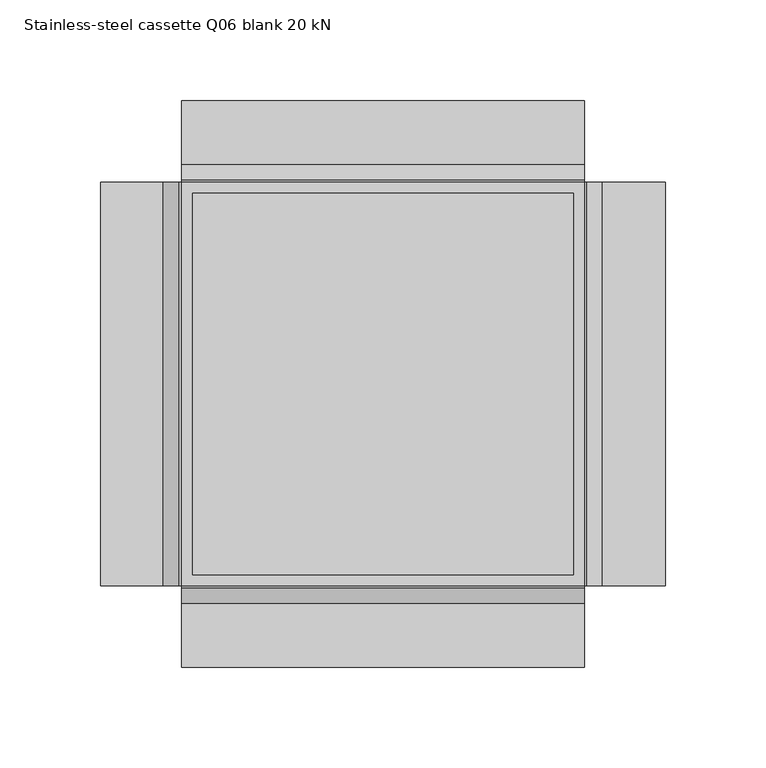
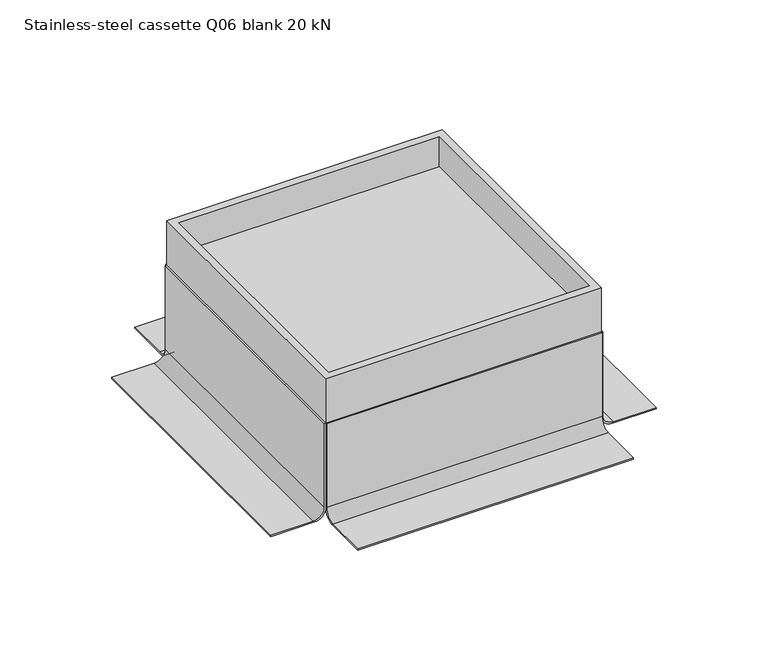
"""IFC4 building model written with IfcOpenShell, lengths in millimetres: proxy geometry, Electrical_Installation_Hager_VE-EE_EKSQ0620BL-Heavy-duty-cassette-Q06-blank : Stainless-steel cassette Q06 blank 20 kN."""

from ifc_helpers import new_model, si_unit, point, frame, frame_2d, origin, place, context, project, spatial, polyline, circle_curve, trimmed, segment, composite_curve, outline, extrude, source, transform, mapped, element, save


def stainless_steel_cassette_q06_blank_20_kn_74425823(model_context):
    return source(origin(), model_context, "Body", "SweptSolid", [
        extrude(outline(composite_curve([segment(polyline([(-32.0, -100.0), (-32.0, -101.0), (-96.0, -101.0)]), True, "CONTINUOUS"), segment(trimmed(circle_curve(frame_2d((-96.0, -109.0)), 8.0), [point((-96.0, -101.0))], [point((-104.0, -109.0))], True, "CARTESIAN"), True, "CONTINUOUS"), segment(polyline([(-104.0, -109.0), (-104.0, -140.0), (-105.0, -140.0), (-105.0, -108.0)]), True, "CONTINUOUS"), segment(trimmed(circle_curve(frame_2d((-97.0, -108.0)), 8.0), [point((-105.0, -108.0))], [point((-97.0, -100.0))], False, "CARTESIAN"), True, "CONTINUOUS"), segment(polyline([(-97.0, -100.0), (-32.0, -100.0)]), True, "CONTINUOUS")], self_intersect=False)), frame((0.0, -100.0, 0.0), z_axis=(0.0, 1.0, 0.0), x_axis=(0.0, 0.0, 1.0)), (0.0, 0.0, 1.0), 200.0),
        extrude(outline(composite_curve([segment(polyline([(-32.0, 100.0), (-97.0, 100.0)]), True, "CONTINUOUS"), segment(trimmed(circle_curve(frame_2d((-97.0, 108.0)), 8.0), [point((-97.0, 100.0))], [point((-105.0, 108.0))], False, "CARTESIAN"), True, "CONTINUOUS"), segment(polyline([(-105.0, 108.0), (-105.0, 140.0), (-104.0, 140.0), (-104.0, 109.0)]), True, "CONTINUOUS"), segment(trimmed(circle_curve(frame_2d((-96.0, 109.0)), 8.0), [point((-104.0, 109.0))], [point((-96.0, 101.0))], True, "CARTESIAN"), True, "CONTINUOUS"), segment(polyline([(-96.0, 101.0), (-32.0, 101.0), (-32.0, 100.0)]), True, "CONTINUOUS")], self_intersect=False)), frame((0.0, -100.0, 0.0), z_axis=(0.0, 1.0, 0.0), x_axis=(0.0, 0.0, 1.0)), (0.0, 0.0, 1.0), 200.0),
        extrude(outline(composite_curve([segment(polyline([(101.0, -32.0), (101.0, -96.0189708)]), True, "CONTINUOUS"), segment(trimmed(circle_curve(frame_2d((108.9810292, -96.0189708)), 7.9810292), [point((101.0, -96.0189708))], [point((108.9810292, -104.0))], True, "CARTESIAN"), True, "CONTINUOUS"), segment(polyline([(108.9810292, -104.0), (140.4, -104.0), (140.4, -105.0), (108.0, -105.0)]), True, "CONTINUOUS"), segment(trimmed(circle_curve(frame_2d((108.0, -97.0)), 8.0), [point((108.0, -105.0))], [point((100.0, -97.0))], False, "CARTESIAN"), True, "CONTINUOUS"), segment(polyline([(100.0, -97.0), (100.0, -32.0), (101.0, -32.0)]), True, "CONTINUOUS")], self_intersect=False)), frame((-100.0, 0.0, 0.0), z_axis=(1.0, 0.0, 0.0), x_axis=(0.0, 1.0, 0.0)), (0.0, 0.0, 1.0), 200.0),
        extrude(outline(composite_curve([segment(polyline([(-101.0, -32.0), (-100.0, -32.0), (-100.0, -97.0)]), True, "CONTINUOUS"), segment(trimmed(circle_curve(frame_2d((-108.0, -97.0)), 8.0), [point((-100.0, -97.0))], [point((-108.0, -105.0))], False, "CARTESIAN"), True, "CONTINUOUS"), segment(polyline([(-108.0, -105.0), (-140.4, -105.0), (-140.4, -104.0), (-109.0, -104.0)]), True, "CONTINUOUS"), segment(trimmed(circle_curve(frame_2d((-109.0, -96.0)), 8.0), [point((-109.0, -104.0))], [point((-101.0, -96.0))], True, "CARTESIAN"), True, "CONTINUOUS"), segment(polyline([(-101.0, -96.0), (-101.0, -32.0)]), True, "CONTINUOUS")], self_intersect=False)), frame((-100.0, 0.0, 0.0), z_axis=(1.0, 0.0, 0.0), x_axis=(0.0, 1.0, 0.0)), (0.0, 0.0, 1.0), 200.0),
        extrude(outline(composite_curve([segment(trimmed(circle_curve(frame_2d((-82.4725668, 86.0)), 6.0), [point((-88.4725668, 86.0))], [point((-76.4725668, 86.0))], False, "CARTESIAN"), True, "CONTINUOUS"), segment(trimmed(circle_curve(frame_2d((-82.4725668, 86.0)), 6.0), [point((-76.4725668, 86.0))], [point((-88.4725668, 86.0))], False, "CARTESIAN"), True, "CONTINUOUS")], self_intersect=False)), frame((0.0, 0.0, -105.0), z_axis=(0.0, 0.0, 1.0), x_axis=(1.0, 0.0, 0.0)), (0.0, 0.0, 1.0), 36.0),
        extrude(outline(composite_curve([segment(trimmed(circle_curve(frame_2d((82.4744064, 86.0)), 6.0), [point((76.4744064, 86.0))], [point((88.4744064, 86.0))], False, "CARTESIAN"), True, "CONTINUOUS"), segment(trimmed(circle_curve(frame_2d((82.4744064, 86.0)), 6.0), [point((88.4744064, 86.0))], [point((76.4744064, 86.0))], False, "CARTESIAN"), True, "CONTINUOUS")], self_intersect=False)), frame((0.0, 0.0, -105.0), z_axis=(0.0, 0.0, 1.0), x_axis=(1.0, 0.0, 0.0)), (0.0, 0.0, 1.0), 36.0),
        extrude(outline(composite_curve([segment(trimmed(circle_curve(frame_2d((82.6049595, -85.0591413)), 6.0), [point((76.6049595, -85.0591413))], [point((88.6049595, -85.0591413))], False, "CARTESIAN"), True, "CONTINUOUS"), segment(trimmed(circle_curve(frame_2d((82.6049595, -85.0591413)), 6.0), [point((88.6049595, -85.0591413))], [point((76.6049595, -85.0591413))], False, "CARTESIAN"), True, "CONTINUOUS")], self_intersect=False)), frame((0.0, 0.0, -105.0), z_axis=(0.0, 0.0, 1.0), x_axis=(1.0, 0.0, 0.0)), (0.0, 0.0, 1.0), 36.0),
        extrude(outline(composite_curve([segment(trimmed(circle_curve(frame_2d((-82.5134194, -84.8420246)), 6.0), [point((-88.5134194, -84.8420246))], [point((-76.5134194, -84.8420246))], False, "CARTESIAN"), True, "CONTINUOUS"), segment(trimmed(circle_curve(frame_2d((-82.5134194, -84.8420246)), 6.0), [point((-76.5134194, -84.8420246))], [point((-88.5134194, -84.8420246))], False, "CARTESIAN"), True, "CONTINUOUS")], self_intersect=False)), frame((0.0, 0.0, -105.0), z_axis=(0.0, 0.0, 1.0), x_axis=(1.0, 0.0, 0.0)), (0.0, 0.0, 1.0), 36.0),
        extrude(outline(polyline([(4.7, 78.5), (72.9392045, 78.5), (88.5, 61.457826), (88.5, -59.6394213), (73.2714168, -77.5), (-73.3036073, -77.5), (-88.5, -59.6394213), (-88.5, 60.8503893), (-72.7447716, 78.5), (4.7, 78.5)]), holes=[polyline([(-86.0, 60.5), (-86.0, -59.7411819), (-73.0172744, -75.0), (72.9708846, -75.0), (86.0, -59.7190289), (86.0, 60.5), (73.0, 76.0), (4.7, 76.0), (-72.9351493, 76.0), (-86.0, 60.5)])]), frame((0.0, 0.0, -72.8886996), z_axis=(0.0, 0.0, 1.0), x_axis=(1.0, 0.0, 0.0)), (0.0, 0.0, 1.0), 40.8886996),
        extrude(outline(polyline([(94.5, 94.5), (94.5, -94.5), (-94.5, -94.5), (-94.5, 94.5), (94.5, 94.5)])), frame((0.0, 0.0, -32.0), z_axis=(0.0, 0.0, 1.0), x_axis=(1.0, 0.0, 0.0)), (0.0, 0.0, 1.0), 11.0),
        extrude(outline(composite_curve([segment(trimmed(circle_curve(frame_2d((82.5179259, -85.0546652)), 8.0), [point((74.5179259, -85.0546652))], [point((90.5179259, -85.0546652))], False, "CARTESIAN"), True, "CONTINUOUS"), segment(trimmed(circle_curve(frame_2d((82.5179259, -85.0546652)), 8.0), [point((90.5179259, -85.0546652))], [point((74.5179259, -85.0546652))], False, "CARTESIAN"), True, "CONTINUOUS")], self_intersect=False)), frame((0.0, 0.0, -69.0), z_axis=(0.0, 0.0, 1.0), x_axis=(1.0, 0.0, 0.0)), (0.0, 0.0, 1.0), 37.0),
        extrude(outline(composite_curve([segment(trimmed(circle_curve(frame_2d((82.4502281, 86.0)), 8.0), [point((74.4502281, 86.0))], [point((90.4502281, 86.0))], False, "CARTESIAN"), True, "CONTINUOUS"), segment(trimmed(circle_curve(frame_2d((82.4502281, 86.0)), 8.0), [point((90.4502281, 86.0))], [point((74.4502281, 86.0))], False, "CARTESIAN"), True, "CONTINUOUS")], self_intersect=False)), frame((0.0, 0.0, -69.0), z_axis=(0.0, 0.0, 1.0), x_axis=(1.0, 0.0, 0.0)), (0.0, 0.0, 1.0), 37.0),
        extrude(outline(composite_curve([segment(trimmed(circle_curve(frame_2d((-82.5762698, 86.0)), 8.0), [point((-90.5762698, 86.0))], [point((-74.5762698, 86.0))], False, "CARTESIAN"), True, "CONTINUOUS"), segment(trimmed(circle_curve(frame_2d((-82.5762698, 86.0)), 8.0), [point((-74.5762698, 86.0))], [point((-90.5762698, 86.0))], False, "CARTESIAN"), True, "CONTINUOUS")], self_intersect=False)), frame((0.0, 0.0, -69.0), z_axis=(0.0, 0.0, 1.0), x_axis=(1.0, 0.0, 0.0)), (0.0, 0.0, 1.0), 37.0),
        extrude(outline(composite_curve([segment(trimmed(circle_curve(frame_2d((-82.589841, -84.7614457)), 8.0111652), [point((-90.6010063, -84.7614457))], [point((-74.5786758, -84.7614457))], False, "CARTESIAN"), True, "CONTINUOUS"), segment(trimmed(circle_curve(frame_2d((-82.589841, -84.7614457)), 8.0111652), [point((-74.5786758, -84.7614457))], [point((-90.6010063, -84.7614457))], False, "CARTESIAN"), True, "CONTINUOUS")], self_intersect=False)), frame((0.0, 0.0, -69.0), z_axis=(0.0, 0.0, 1.0), x_axis=(1.0, 0.0, 0.0)), (0.0, 0.0, 1.0), 37.0),
        extrude(outline(polyline([(100.0, 100.0), (100.0, -100.0), (-100.0, -100.0), (-100.0, 100.0), (100.0, 100.0)]), holes=[polyline([(94.5, 94.5), (-94.5, 94.5), (-94.5, -94.5), (94.5, -94.5), (94.5, 94.5)])]), frame((0.0, 0.0, -32.0), z_axis=(0.0, 0.0, 1.0), x_axis=(1.0, 0.0, 0.0)), (0.0, 0.0, 1.0), 34.0),
    ])


if __name__ == "__main__":
    model = new_model("IFC4")
    model_context = context("Model", 3, world=origin())
    ifc_project = project(units=[si_unit("LENGTHUNIT", "METRE", prefix="MILLI")], contexts=[model_context])
    site = spatial("IfcSite", under=ifc_project)
    building = spatial("IfcBuilding", under=site)
    placement = place(None, origin())
    stainless_steel_cassette_q06_blank_20_kn_shape = stainless_steel_cassette_q06_blank_20_kn_74425823(model_context)
    element("IfcBuildingElementProxy", 1, Name="Electrical_Installation_Hager_VE-EE_EKSQ0620BL-Heavy-duty-cassette-Q06-blank : Stainless-steel cassette Q06 blank 20 kN", ObjectType="Electrical_Installation_Hager_VE-EE_EKSQ0620BL-Heavy-duty-cassette-Q06-blank : Stainless-steel cassette Q06 blank 20 kN", at=placement, inside=building, context=model_context, shape_type="MappedRepresentation", body=[
        mapped(stainless_steel_cassette_q06_blank_20_kn_shape, transform((0.0, 0.0, 0.0), x_axis=(1.0, 0.0, 0.0), y_axis=(0.0, 1.0, 0.0), z_axis=(0.0, 0.0, 1.0))),
    ])
    save(model, "model.ifc")
